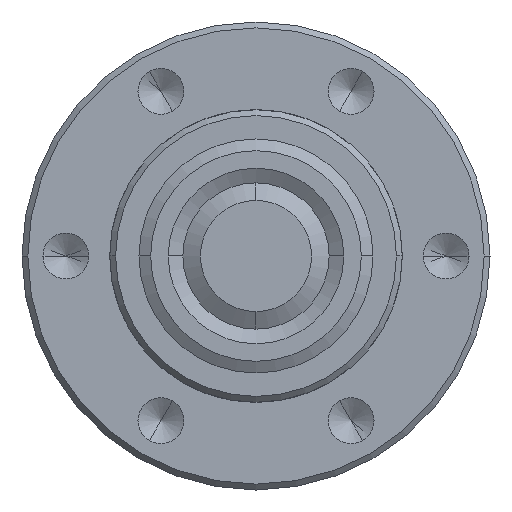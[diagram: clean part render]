
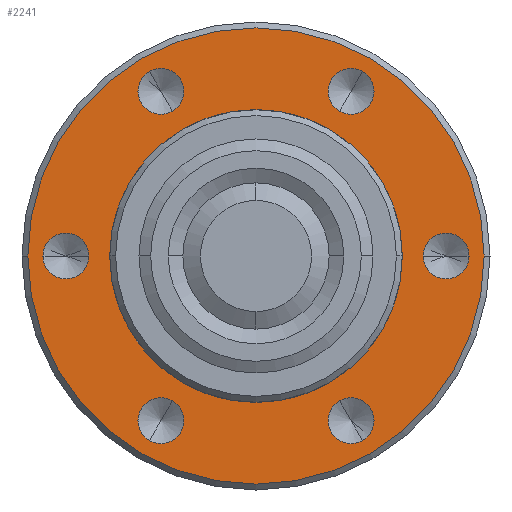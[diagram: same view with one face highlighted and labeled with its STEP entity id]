
A CAD part, left-side view. The second image highlights one B-rep face of the part: STEP entity #2241.
In plain terms, the highlighted planar face has unit normal (-1, 0, 0).
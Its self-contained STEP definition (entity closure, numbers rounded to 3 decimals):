
#97=CARTESIAN_POINT('',(0.,0.,0.));
#98=DIRECTION('',(-1.,0.,0.));
#99=DIRECTION('',(0.,1.,0.));
#100=AXIS2_PLACEMENT_3D('',#97,#98,#99);
#105=CARTESIAN_POINT('',(0.,0.,0.));
#106=DIRECTION('',(-1.,0.,0.));
#107=DIRECTION('',(0.,-1.,0.));
#108=AXIS2_PLACEMENT_3D('',#105,#106,#107);
#113=CARTESIAN_POINT('',(0.,6.5,0.));
#114=DIRECTION('',(1.,0.,0.));
#115=DIRECTION('',(0.,-1.,0.));
#116=AXIS2_PLACEMENT_3D('',#113,#114,#115);
#121=CARTESIAN_POINT('',(0.,6.5,0.));
#122=DIRECTION('',(1.,0.,0.));
#123=DIRECTION('',(0.,1.,0.));
#124=AXIS2_PLACEMENT_3D('',#121,#122,#123);
#129=CARTESIAN_POINT('',(0.,3.25,5.629));
#130=DIRECTION('',(1.,0.,0.));
#131=DIRECTION('',(0.,-0.5,-0.866));
#132=AXIS2_PLACEMENT_3D('',#129,#130,#131);
#137=CARTESIAN_POINT('',(0.,3.25,5.629));
#138=DIRECTION('',(1.,0.,0.));
#139=DIRECTION('',(0.,0.5,0.866));
#140=AXIS2_PLACEMENT_3D('',#137,#138,#139);
#145=CARTESIAN_POINT('',(0.,-3.25,5.629));
#146=DIRECTION('',(1.,0.,0.));
#147=DIRECTION('',(0.,0.5,-0.866));
#148=AXIS2_PLACEMENT_3D('',#145,#146,#147);
#153=CARTESIAN_POINT('',(0.,-3.25,5.629));
#154=DIRECTION('',(1.,0.,0.));
#155=DIRECTION('',(0.,-0.5,0.866));
#156=AXIS2_PLACEMENT_3D('',#153,#154,#155);
#161=CARTESIAN_POINT('',(0.,-6.5,0.));
#162=DIRECTION('',(1.,0.,0.));
#163=DIRECTION('',(0.,1.,0.));
#164=AXIS2_PLACEMENT_3D('',#161,#162,#163);
#169=CARTESIAN_POINT('',(0.,-6.5,0.));
#170=DIRECTION('',(1.,0.,0.));
#171=DIRECTION('',(0.,-1.,0.));
#172=AXIS2_PLACEMENT_3D('',#169,#170,#171);
#177=CARTESIAN_POINT('',(0.,-3.25,-5.629));
#178=DIRECTION('',(1.,0.,0.));
#179=DIRECTION('',(0.,0.5,0.866));
#180=AXIS2_PLACEMENT_3D('',#177,#178,#179);
#185=CARTESIAN_POINT('',(0.,-3.25,-5.629));
#186=DIRECTION('',(1.,0.,0.));
#187=DIRECTION('',(0.,-0.5,-0.866));
#188=AXIS2_PLACEMENT_3D('',#185,#186,#187);
#193=CARTESIAN_POINT('',(0.,3.25,-5.629));
#194=DIRECTION('',(1.,0.,0.));
#195=DIRECTION('',(0.,-0.5,0.866));
#196=AXIS2_PLACEMENT_3D('',#193,#194,#195);
#201=CARTESIAN_POINT('',(0.,3.25,-5.629));
#202=DIRECTION('',(1.,0.,0.));
#203=DIRECTION('',(0.,0.5,-0.866));
#204=AXIS2_PLACEMENT_3D('',#201,#202,#203);
#953=CARTESIAN_POINT('',(0.,0.,0.));
#954=DIRECTION('',(1.,0.,0.));
#955=DIRECTION('',(0.,1.,0.));
#956=AXIS2_PLACEMENT_3D('',#953,#954,#955);
#968=CARTESIAN_POINT('',(0.,0.,0.));
#969=DIRECTION('',(-1.,0.,0.));
#970=DIRECTION('',(0.,1.,0.));
#971=AXIS2_PLACEMENT_3D('',#968,#969,#970);
#1864=CARTESIAN_POINT('',(0.,5.715,0.));
#1865=CARTESIAN_POINT('',(0.,7.285,0.));
#1866=VERTEX_POINT('',#1864);
#1867=VERTEX_POINT('',#1865);
#1874=CARTESIAN_POINT('',(0.,2.858,4.949));
#1875=CARTESIAN_POINT('',(0.,3.643,6.309));
#1876=VERTEX_POINT('',#1874);
#1877=VERTEX_POINT('',#1875);
#1884=CARTESIAN_POINT('',(0.,-2.858,4.949));
#1885=CARTESIAN_POINT('',(0.,-3.643,6.309));
#1886=VERTEX_POINT('',#1884);
#1887=VERTEX_POINT('',#1885);
#1894=CARTESIAN_POINT('',(0.,-5.715,0.));
#1895=CARTESIAN_POINT('',(0.,-7.285,0.));
#1896=VERTEX_POINT('',#1894);
#1897=VERTEX_POINT('',#1895);
#1904=CARTESIAN_POINT('',(0.,-2.858,-4.949));
#1905=CARTESIAN_POINT('',(0.,-3.643,-6.309));
#1906=VERTEX_POINT('',#1904);
#1907=VERTEX_POINT('',#1905);
#1914=CARTESIAN_POINT('',(0.,2.858,-4.949));
#1915=CARTESIAN_POINT('',(0.,3.643,-6.309));
#1916=VERTEX_POINT('',#1914);
#1917=VERTEX_POINT('',#1915);
#1918=CARTESIAN_POINT('',(0.,7.8,0.));
#1919=CARTESIAN_POINT('',(0.,-7.8,0.));
#1920=VERTEX_POINT('',#1918);
#1921=VERTEX_POINT('',#1919);
#1954=CARTESIAN_POINT('',(0.,5.,0.));
#1956=VERTEX_POINT('',#1954);
#1962=CARTESIAN_POINT('',(0.,-5.,0.));
#1964=VERTEX_POINT('',#1962);
#2189=CARTESIAN_POINT('',(0.,0.,0.));
#2190=DIRECTION('',(-1.,0.,0.));
#2191=DIRECTION('',(0.,1.,0.));
#2192=AXIS2_PLACEMENT_3D('',#2189,#2190,#2191);
#2193=PLANE('',#2192);
#2194=ORIENTED_EDGE('',*,*,#2167,.F.);
#2196=ORIENTED_EDGE('',*,*,#2195,.F.);
#2197=EDGE_LOOP('',(#2194,#2196));
#2198=FACE_OUTER_BOUND('',#2197,.F.);
#2200=ORIENTED_EDGE('',*,*,#2199,.F.);
#2202=ORIENTED_EDGE('',*,*,#2201,.T.);
#2203=EDGE_LOOP('',(#2200,#2202));
#2204=FACE_BOUND('',#2203,.F.);
#2206=ORIENTED_EDGE('',*,*,#2205,.F.);
#2208=ORIENTED_EDGE('',*,*,#2207,.F.);
#2209=EDGE_LOOP('',(#2206,#2208));
#2210=FACE_BOUND('',#2209,.F.);
#2212=ORIENTED_EDGE('',*,*,#2211,.F.);
#2214=ORIENTED_EDGE('',*,*,#2213,.F.);
#2215=EDGE_LOOP('',(#2212,#2214));
#2216=FACE_BOUND('',#2215,.F.);
#2218=ORIENTED_EDGE('',*,*,#2217,.F.);
#2220=ORIENTED_EDGE('',*,*,#2219,.F.);
#2221=EDGE_LOOP('',(#2218,#2220));
#2222=FACE_BOUND('',#2221,.F.);
#2224=ORIENTED_EDGE('',*,*,#2223,.F.);
#2226=ORIENTED_EDGE('',*,*,#2225,.F.);
#2227=EDGE_LOOP('',(#2224,#2226));
#2228=FACE_BOUND('',#2227,.F.);
#2230=ORIENTED_EDGE('',*,*,#2229,.F.);
#2232=ORIENTED_EDGE('',*,*,#2231,.F.);
#2233=EDGE_LOOP('',(#2230,#2232));
#2234=FACE_BOUND('',#2233,.F.);
#2236=ORIENTED_EDGE('',*,*,#2235,.F.);
#2238=ORIENTED_EDGE('',*,*,#2237,.F.);
#2239=EDGE_LOOP('',(#2236,#2238));
#2240=FACE_BOUND('',#2239,.F.);
#2241=ADVANCED_FACE('',(#2198,#2204,#2210,#2216,#2222,#2228,#2234,#2240),#2193,
.T.);
#101=CIRCLE('',#100,7.8);
#109=CIRCLE('',#108,7.8);
#117=CIRCLE('',#116,0.785);
#125=CIRCLE('',#124,0.785);
#133=CIRCLE('',#132,0.785);
#141=CIRCLE('',#140,0.785);
#149=CIRCLE('',#148,0.785);
#157=CIRCLE('',#156,0.785);
#165=CIRCLE('',#164,0.785);
#173=CIRCLE('',#172,0.785);
#181=CIRCLE('',#180,0.785);
#189=CIRCLE('',#188,0.785);
#197=CIRCLE('',#196,0.785);
#205=CIRCLE('',#204,0.785);
#957=CIRCLE('',#956,5.);
#972=CIRCLE('',#971,5.);
#2167=EDGE_CURVE('',#1920,#1921,#101,.T.);
#2195=EDGE_CURVE('',#1921,#1920,#109,.T.);
#2199=EDGE_CURVE('',#1956,#1964,#957,.T.);
#2201=EDGE_CURVE('',#1956,#1964,#972,.T.);
#2205=EDGE_CURVE('',#1866,#1867,#117,.T.);
#2207=EDGE_CURVE('',#1867,#1866,#125,.T.);
#2211=EDGE_CURVE('',#1876,#1877,#133,.T.);
#2213=EDGE_CURVE('',#1877,#1876,#141,.T.);
#2217=EDGE_CURVE('',#1886,#1887,#149,.T.);
#2219=EDGE_CURVE('',#1887,#1886,#157,.T.);
#2223=EDGE_CURVE('',#1896,#1897,#165,.T.);
#2225=EDGE_CURVE('',#1897,#1896,#173,.T.);
#2229=EDGE_CURVE('',#1906,#1907,#181,.T.);
#2231=EDGE_CURVE('',#1907,#1906,#189,.T.);
#2235=EDGE_CURVE('',#1916,#1917,#197,.T.);
#2237=EDGE_CURVE('',#1917,#1916,#205,.T.);
